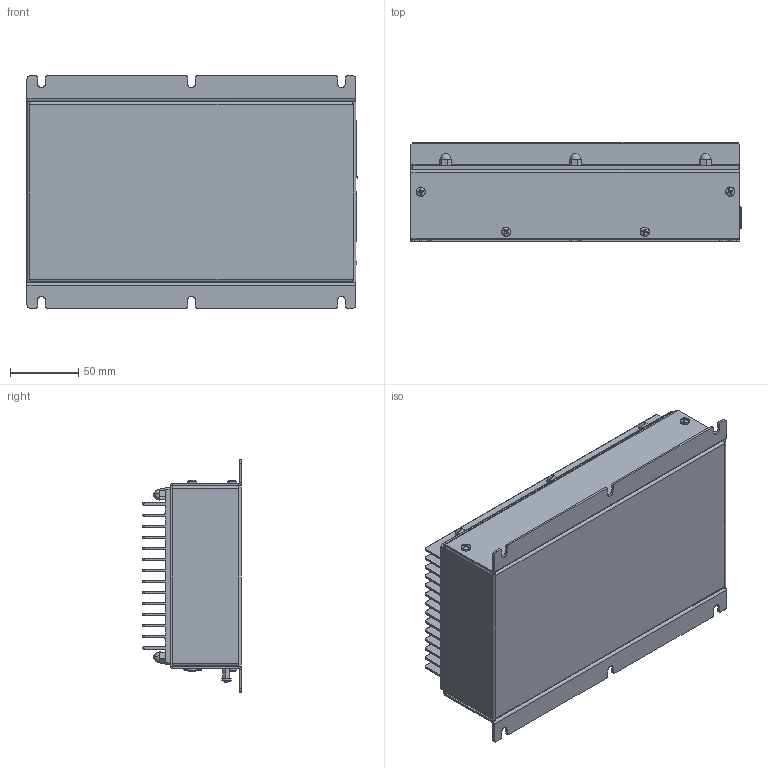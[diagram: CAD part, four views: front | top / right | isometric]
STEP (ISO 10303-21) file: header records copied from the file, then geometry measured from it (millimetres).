
FILE_DESCRIPTION (( 'STEP AP203' ), '1' );
FILE_NAME ('108 cell final assembly external faces 14fin.STEP', '2016-12-13T15:32:50', ( '' ), ( '' ), 'SwSTEP 2.0', 'SolidWorks 2016', '' );
FILE_SCHEMA (( 'CONFIG_CONTROL_DESIGN' ));
Length unit declared in the file: inch
Products named in the file (1): 108 cell final assembly external faces 14fin
Bounding box: 242.13 x 72.59 x 170.59 mm (x, y, z)
Surface area: 415977.8 mm2 (no closed solid volume)
Topology: 0 solids, 42 shells, 1295 faces, 4877 edges, 3519 vertices
Faces by surface type: plane 945, cylinder 227, cone 49, torus 30, sphere 28, bspline 16
Entity records: 52890 total; most frequent: CARTESIAN_POINT 12193, DIRECTION 8175, ORIENTED_EDGE 7761, EDGE_CURVE 4877, VERTEX_POINT 3519, VECTOR 3005, LINE 3005, AXIS2_PLACEMENT_3D 2585
